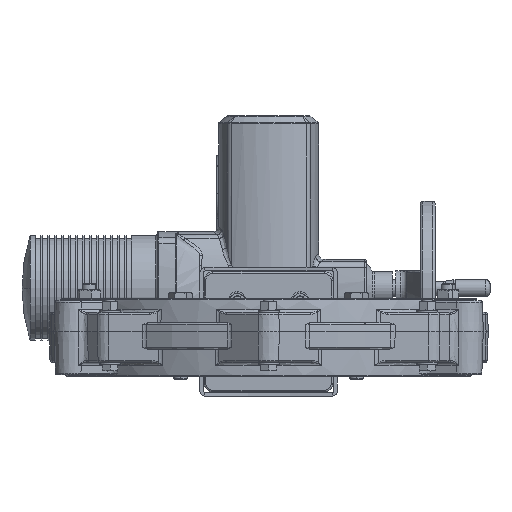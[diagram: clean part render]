
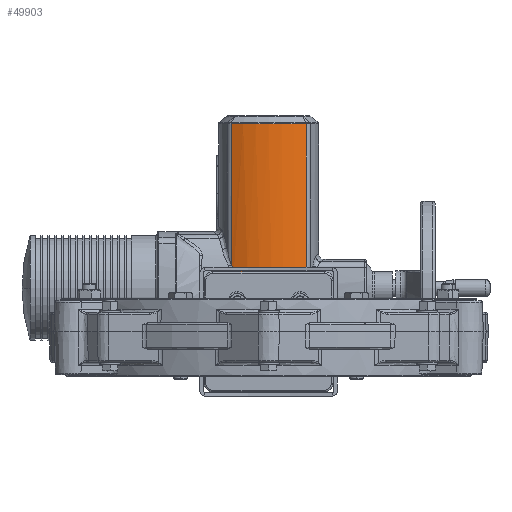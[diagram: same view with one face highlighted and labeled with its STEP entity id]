
A CAD part, front view. The second image highlights one B-rep face of the part: STEP entity #49903.
In plain terms, the highlighted cylindrical face has radius 100 mm (diameter 200 mm), a partial arc.
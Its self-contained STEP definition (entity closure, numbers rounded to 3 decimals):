
#1943 = DIRECTION ( 'NONE',  ( 0., 0., -1. ) ) ;
#6079 = CARTESIAN_POINT ( 'NONE',  ( 0., 1055., 247.75 ) ) ;
#8612 = CARTESIAN_POINT ( 'NONE',  ( -43.041, 964.737, 76.501 ) ) ;
#9902 = CARTESIAN_POINT ( 'NONE',  ( -14.131, 955.988, 66.117 ) ) ;
#10520 = CARTESIAN_POINT ( 'NONE',  ( 22.103, 957.47, 65.176 ) ) ;
#12878 = CARTESIAN_POINT ( 'NONE',  ( -43.041, 964.737, 76.501 ) ) ;
#14502 = AXIS2_PLACEMENT_3D ( 'NONE', #6079, #181067, #36284 ) ;
#15449 = AXIS2_PLACEMENT_3D ( 'NONE', #63096, #165573, #77936 ) ;
#16366 = CARTESIAN_POINT ( 'NONE',  ( 43.041, 964.737, 238.426 ) ) ;
#20008 = ORIENTED_EDGE ( 'NONE', *, *, #122391, .T. ) ;
#22202 = EDGE_CURVE ( 'NONE', #116494, #145282, #99557, .T. ) ;
#24661 = CARTESIAN_POINT ( 'NONE',  ( -10.673, 955.567, 66.386 ) ) ;
#25274 = CARTESIAN_POINT ( 'NONE',  ( 27.143, 958.692, 64.404 ) ) ;
#25897 = CARTESIAN_POINT ( 'NONE',  ( -38.812, 962.833, 67.167 ) ) ;
#36284 = DIRECTION ( 'NONE',  ( -1., 0., 0. ) ) ;
#39470 = CARTESIAN_POINT ( 'NONE',  ( -8.057, 955.321, 66.544 ) ) ;
#40079 = CARTESIAN_POINT ( 'NONE',  ( 36.839, 961.97, 62.368 ) ) ;
#40095 = LINE ( 'NONE', #53187, #157067 ) ;
#40697 = CARTESIAN_POINT ( 'NONE',  ( -37.247, 962.196, 62.232 ) ) ;
#45846 = ORIENTED_EDGE ( 'NONE', *, *, #142905, .T. ) ;
#45939 = EDGE_LOOP ( 'NONE', ( #105917, #172056, #116499, #45846, #20008 ) ) ;
#49832 = VERTEX_POINT ( 'NONE', #16366 ) ;
#49903 = ADVANCED_FACE ( 'NONE', ( #147172 ), #167736, .T. ) ;
#53187 = CARTESIAN_POINT ( 'NONE',  ( 43.041, 964.737, 247.75 ) ) ;
#54179 = CARTESIAN_POINT ( 'NONE',  ( -0.227, 954.94, 66.788 ) ) ;
#54812 = CARTESIAN_POINT ( 'NONE',  ( 43.041, 964.737, 60.688 ) ) ;
#63096 = CARTESIAN_POINT ( 'NONE',  ( 0., 1055., 238.426 ) ) ;
#64985 = B_SPLINE_CURVE_WITH_KNOTS ( 'NONE', 3,
 ( #8612, #186746, #113775, #25897, #128533, #40697 ),
 .UNSPECIFIED., .F., .F.,
 ( 4, 2, 4 ),
 ( 0., 0.008, 0.016 ),
 .UNSPECIFIED. ) ;
#68327 = CARTESIAN_POINT ( 'NONE',  ( -34.072, 960.921, 63.013 ) ) ;
#68949 = CARTESIAN_POINT ( 'NONE',  ( 10.134, 955.455, 66.458 ) ) ;
#75242 = CARTESIAN_POINT ( 'NONE',  ( -43.041, 964.737, 238.426 ) ) ;
#77936 = DIRECTION ( 'NONE',  ( 1., 0., 0. ) ) ;
#81400 = EDGE_CURVE ( 'NONE', #49832, #145282, #40095, .T. ) ;
#83142 = CARTESIAN_POINT ( 'NONE',  ( -24.276, 957.931, 64.883 ) ) ;
#83763 = CARTESIAN_POINT ( 'NONE',  ( 16.99, 956.439, 65.83 ) ) ;
#97877 = CARTESIAN_POINT ( 'NONE',  ( -15.843, 956.248, 65.951 ) ) ;
#98480 = CARTESIAN_POINT ( 'NONE',  ( 20.406, 957.1, 65.41 ) ) ;
#99557 = B_SPLINE_CURVE_WITH_KNOTS ( 'NONE', 3,
 ( #170795, #68327, #156116, #83142, #185482, #97877, #9902, #112560, #24661, #127290, #39470, #142027, #54179, #156753, #68949, #171414, #83763, #186141, #98480, #10520, #113179, #25274, #127911, #40079, #142650, #54812 ),
 .UNSPECIFIED., .F., .F.,
 ( 4, 2, 2, 2, 2, 2, 2, 2, 2, 2, 2, 2, 4 ),
 ( 0., 0.01, 0.021, 0.026, 0.029, 0.031, 0.042, 0.052, 0.057, 0.06, 0.062, 0.073, 0.083 ),
 .UNSPECIFIED. ) ;
#105917 = ORIENTED_EDGE ( 'NONE', *, *, #166721, .T. ) ;
#112560 = CARTESIAN_POINT ( 'NONE',  ( -11.541, 955.664, 66.324 ) ) ;
#113179 = CARTESIAN_POINT ( 'NONE',  ( 22.947, 957.665, 65.053 ) ) ;
#113775 = CARTESIAN_POINT ( 'NONE',  ( -40.772, 963.683, 71.911 ) ) ;
#116494 = VERTEX_POINT ( 'NONE', #185108 ) ;
#116499 = ORIENTED_EDGE ( 'NONE', *, *, #81400, .F. ) ;
#122391 = EDGE_CURVE ( 'NONE', #171469, #124627, #163785, .T. ) ;
#124627 = VERTEX_POINT ( 'NONE', #12878 ) ;
#124961 = VECTOR ( 'NONE', #1943, 1000. ) ;
#127290 = CARTESIAN_POINT ( 'NONE',  ( -8.931, 955.396, 66.496 ) ) ;
#127911 = CARTESIAN_POINT ( 'NONE',  ( 30.423, 959.679, 63.785 ) ) ;
#128533 = CARTESIAN_POINT ( 'NONE',  ( -37.946, 962.476, 64.739 ) ) ;
#142027 = CARTESIAN_POINT ( 'NONE',  ( -3.699, 955.007, 66.745 ) ) ;
#142650 = CARTESIAN_POINT ( 'NONE',  ( 39.975, 963.275, 61.568 ) ) ;
#142905 = EDGE_CURVE ( 'NONE', #49832, #171469, #169890, .T. ) ;
#145282 = VERTEX_POINT ( 'NONE', #155852 ) ;
#147172 = FACE_OUTER_BOUND ( 'NONE', #45939, .T. ) ;
#155852 = CARTESIAN_POINT ( 'NONE',  ( 43.041, 964.737, 60.688 ) ) ;
#156116 = CARTESIAN_POINT ( 'NONE',  ( -30.843, 959.814, 63.702 ) ) ;
#156753 = CARTESIAN_POINT ( 'NONE',  ( 6.69, 955.164, 66.645 ) ) ;
#157067 = VECTOR ( 'NONE', #170420, 1000. ) ;
#163785 = LINE ( 'NONE', #177560, #124961 ) ;
#165573 = DIRECTION ( 'NONE',  ( 0., 0., -1. ) ) ;
#166721 = EDGE_CURVE ( 'NONE', #124627, #116494, #64985, .T. ) ;
#167736 = CYLINDRICAL_SURFACE ( 'NONE', #14502, 100. ) ;
#169890 = CIRCLE ( 'NONE', #15449, 100. ) ;
#170420 = DIRECTION ( 'NONE',  ( 0., 0., -1. ) ) ;
#170795 = CARTESIAN_POINT ( 'NONE',  ( -37.247, 962.196, 62.232 ) ) ;
#171414 = CARTESIAN_POINT ( 'NONE',  ( 15.279, 956.159, 66.008 ) ) ;
#171469 = VERTEX_POINT ( 'NONE', #75242 ) ;
#172056 = ORIENTED_EDGE ( 'NONE', *, *, #22202, .T. ) ;
#177560 = CARTESIAN_POINT ( 'NONE',  ( -43.041, 964.737, 247.75 ) ) ;
#181067 = DIRECTION ( 'NONE',  ( 0., 0., -1. ) ) ;
#185108 = CARTESIAN_POINT ( 'NONE',  ( -37.247, 962.196, 62.232 ) ) ;
#185482 = CARTESIAN_POINT ( 'NONE',  ( -20.937, 957.156, 65.374 ) ) ;
#186141 = CARTESIAN_POINT ( 'NONE',  ( 19.552, 956.926, 65.52 ) ) ;
#186746 = CARTESIAN_POINT ( 'NONE',  ( -41.868, 964.177, 74.227 ) ) ;
